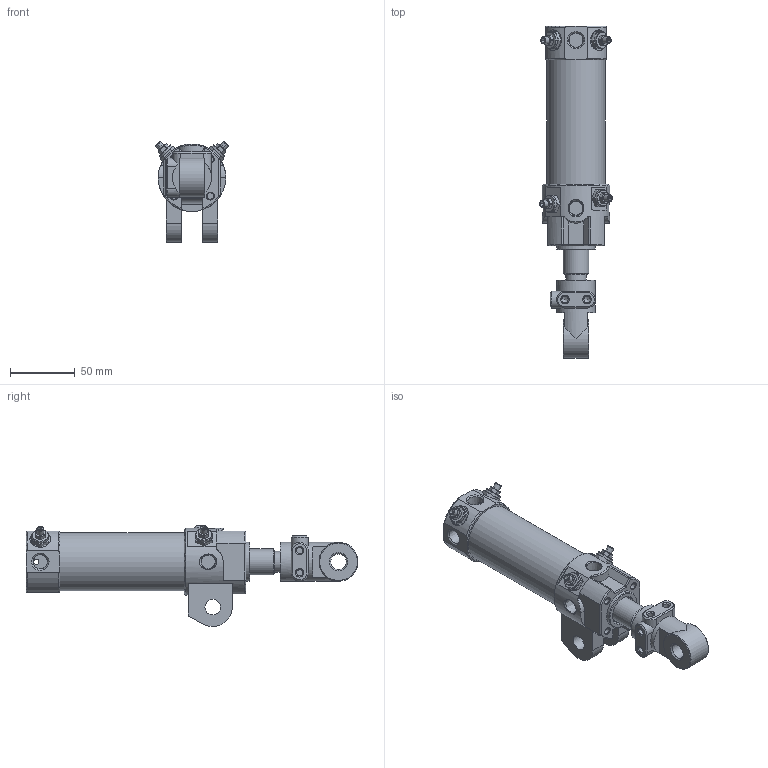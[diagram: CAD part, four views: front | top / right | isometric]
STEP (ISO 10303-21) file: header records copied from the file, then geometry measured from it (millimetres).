
FILE_DESCRIPTION((''),'2;1');
FILE_NAME('I:\3D電子目錄\氣缸\DCK\DCK\DCK-1A-40x50-I.stp','2008-02-26T10:49:46',('Administrator'),(''),'Autodesk Inventor 11','Autodesk Inventor 11','');
FILE_SCHEMA(('AUTOMOTIVE_DESIGN { 1 0 10303 214 1 1 1 1 }'));
Length unit declared in the file: millimetre
Products named in the file (6): DCK-1A-40-I; 緩衝針; 緩衝針-1; 緩衝針-201; 緩衝針-3
Assembly tree (8 placements, depth 3):
  DCK-1A-40-I
    DCK-1A-40-I
    緩衝針  x4
      緩衝針-1
      緩衝針-201
      緩衝針-3
Bounding box: 56.06 x 256 x 78.02 mm (x, y, z)
Volume: 226238.2 mm3; surface area: 89476.9 mm2
Topology: 16 solids, 16 shells, 688 faces, 1580 edges, 982 vertices
Faces by surface type: plane 234, cylinder 209, cone 144, bspline 64, torus 35, sphere 2
Full cylindrical faces by diameter (mm): 2 x1, 3 x3, 3.8 x2, 4 x6, 4.6 x4, 5 x8, 5.1 x4, 5.2 x12, 5.5 x4, 7 x1, 7.25 x1, 7.9 x4, 8 x2, 8.3 x1, 10 x2, 12 x3, 12.8 x4, 16 x3, 20 x1, 21 x1, 22 x3, 23 x1, 24.7 x1, 26 x1, 28 x1, 29 x1, 30 x3, 33 x1, 40 x1, 42 x2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
Entity records: 22337 total; most frequent: CARTESIAN_POINT 13105, DIRECTION 1810, ORIENTED_EDGE 1772, EDGE_CURVE 886, AXIS2_PLACEMENT_3D 781, EDGE_LOOP 625, VERTEX_POINT 617, FACE_OUTER_BOUND 437
